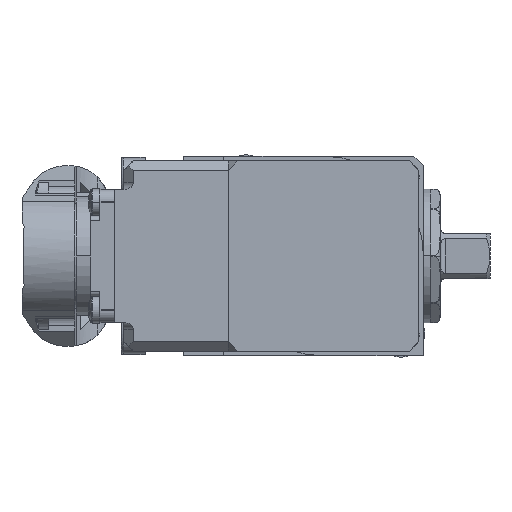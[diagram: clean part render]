
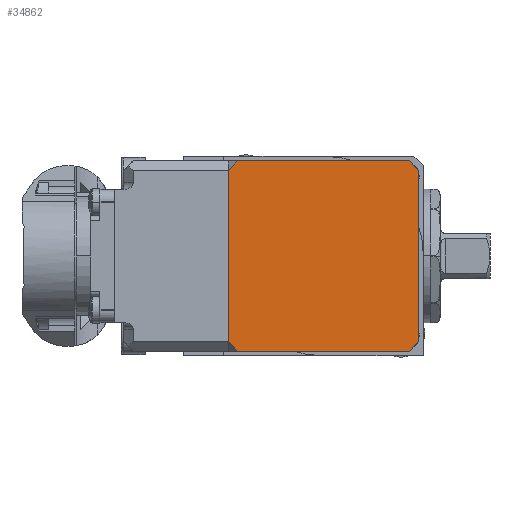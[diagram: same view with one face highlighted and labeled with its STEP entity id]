
A CAD part, left-side view. The second image highlights one B-rep face of the part: STEP entity #34862.
In plain terms, the highlighted planar face has unit normal (-1, 0, 0).
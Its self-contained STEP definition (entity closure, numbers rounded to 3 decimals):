
#19 = EDGE_CURVE ( 'NONE', #55104, #53183, #11957, .T. ) ;
#193 = EDGE_CURVE ( 'NONE', #24244, #13541, #43486, .T. ) ;
#1010 = EDGE_CURVE ( 'NONE', #49227, #53940, #51646, .T. ) ;
#1402 = VECTOR ( 'NONE', #26378, 1000. ) ;
#2234 = VECTOR ( 'NONE', #14892, 1000. ) ;
#2369 = DIRECTION ( 'NONE',  ( 0., 0.707, -0.707 ) ) ;
#3818 = FACE_OUTER_BOUND ( 'NONE', #35322, .T. ) ;
#4073 = CARTESIAN_POINT ( 'NONE',  ( -113., 20., -18. ) ) ;
#4747 = VERTEX_POINT ( 'NONE', #22164 ) ;
#6779 = LINE ( 'NONE', #34126, #60161 ) ;
#10026 = DIRECTION ( 'NONE',  ( 0., 0., 1. ) ) ;
#10066 = CARTESIAN_POINT ( 'NONE',  ( -113., 20., -18. ) ) ;
#10601 = ORIENTED_EDGE ( 'NONE', *, *, #26109, .T. ) ;
#10706 = LINE ( 'NONE', #15235, #22819 ) ;
#11957 = LINE ( 'NONE', #37965, #65350 ) ;
#12074 = ORIENTED_EDGE ( 'NONE', *, *, #21296, .T. ) ;
#13420 = VERTEX_POINT ( 'NONE', #38354 ) ;
#13541 = VERTEX_POINT ( 'NONE', #29710 ) ;
#13857 = CARTESIAN_POINT ( 'NONE',  ( -113., 20., 18. ) ) ;
#14892 = DIRECTION ( 'NONE',  ( 0., 0.707, 0.707 ) ) ;
#15026 = ORIENTED_EDGE ( 'NONE', *, *, #49153, .T. ) ;
#15235 = CARTESIAN_POINT ( 'NONE',  ( -113., -18., 20. ) ) ;
#17726 = CARTESIAN_POINT ( 'NONE',  ( -113., 18., 20. ) ) ;
#19148 = ORIENTED_EDGE ( 'NONE', *, *, #193, .T. ) ;
#19633 = AXIS2_PLACEMENT_3D ( 'NONE', #50736, #40975, #10026 ) ;
#19634 = VECTOR ( 'NONE', #2369, 1000. ) ;
#20860 = VECTOR ( 'NONE', #27642, 1000. ) ;
#21296 = EDGE_CURVE ( 'NONE', #13420, #49227, #6779, .T. ) ;
#22164 = CARTESIAN_POINT ( 'NONE',  ( -113., 18., 20. ) ) ;
#22608 = DIRECTION ( 'NONE',  ( 0., 0., -1. ) ) ;
#22819 = VECTOR ( 'NONE', #41030, 1000. ) ;
#24244 = VERTEX_POINT ( 'NONE', #55822 ) ;
#26109 = EDGE_CURVE ( 'NONE', #53940, #24244, #28869, .T. ) ;
#26378 = DIRECTION ( 'NONE',  ( 0., 0., 1. ) ) ;
#27642 = DIRECTION ( 'NONE',  ( 0., -0.707, 0.707 ) ) ;
#28869 = LINE ( 'NONE', #57388, #1402 ) ;
#29710 = CARTESIAN_POINT ( 'NONE',  ( -113., -18., 20. ) ) ;
#32826 = CARTESIAN_POINT ( 'NONE',  ( -113., -18., -20. ) ) ;
#34126 = CARTESIAN_POINT ( 'NONE',  ( -113., 18., -20. ) ) ;
#34862 = ADVANCED_FACE ( 'NONE', ( #3818 ), #66781, .T. ) ;
#35322 = EDGE_LOOP ( 'NONE', ( #63477, #10601, #19148, #38532, #63410, #36188, #15026, #12074 ) ) ;
#36188 = ORIENTED_EDGE ( 'NONE', *, *, #19, .T. ) ;
#37897 = EDGE_CURVE ( 'NONE', #4747, #55104, #62543, .T. ) ;
#37965 = CARTESIAN_POINT ( 'NONE',  ( -113., 20., 18. ) ) ;
#38354 = CARTESIAN_POINT ( 'NONE',  ( -113., 18., -20. ) ) ;
#38532 = ORIENTED_EDGE ( 'NONE', *, *, #64287, .T. ) ;
#40975 = DIRECTION ( 'NONE',  ( -1., 0., 0. ) ) ;
#41030 = DIRECTION ( 'NONE',  ( 0., 1., 0. ) ) ;
#41481 = CARTESIAN_POINT ( 'NONE',  ( -113., -18., -20. ) ) ;
#43455 = CARTESIAN_POINT ( 'NONE',  ( -113., -20., -18. ) ) ;
#43486 = LINE ( 'NONE', #51114, #2234 ) ;
#44688 = VECTOR ( 'NONE', #51465, 1000. ) ;
#49153 = EDGE_CURVE ( 'NONE', #53183, #13420, #60045, .T. ) ;
#49227 = VERTEX_POINT ( 'NONE', #41481 ) ;
#50736 = CARTESIAN_POINT ( 'NONE',  ( -113., 0., 0. ) ) ;
#51114 = CARTESIAN_POINT ( 'NONE',  ( -113., -20., 18. ) ) ;
#51465 = DIRECTION ( 'NONE',  ( 0., -0.707, -0.707 ) ) ;
#51646 = LINE ( 'NONE', #32826, #20860 ) ;
#53183 = VERTEX_POINT ( 'NONE', #4073 ) ;
#53940 = VERTEX_POINT ( 'NONE', #43455 ) ;
#55104 = VERTEX_POINT ( 'NONE', #13857 ) ;
#55822 = CARTESIAN_POINT ( 'NONE',  ( -113., -20., 18. ) ) ;
#57388 = CARTESIAN_POINT ( 'NONE',  ( -113., -20., -18. ) ) ;
#59925 = DIRECTION ( 'NONE',  ( 0., -1., 0. ) ) ;
#60045 = LINE ( 'NONE', #10066, #44688 ) ;
#60161 = VECTOR ( 'NONE', #59925, 1000. ) ;
#62543 = LINE ( 'NONE', #17726, #19634 ) ;
#63410 = ORIENTED_EDGE ( 'NONE', *, *, #37897, .T. ) ;
#63477 = ORIENTED_EDGE ( 'NONE', *, *, #1010, .T. ) ;
#64287 = EDGE_CURVE ( 'NONE', #13541, #4747, #10706, .T. ) ;
#65350 = VECTOR ( 'NONE', #22608, 1000. ) ;
#66781 = PLANE ( 'NONE',  #19633 ) ;
